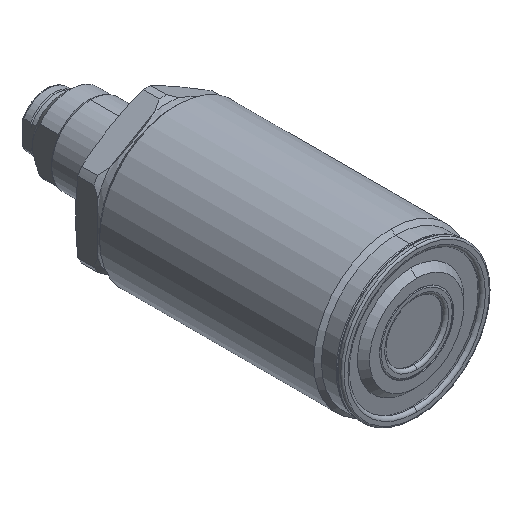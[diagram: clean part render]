
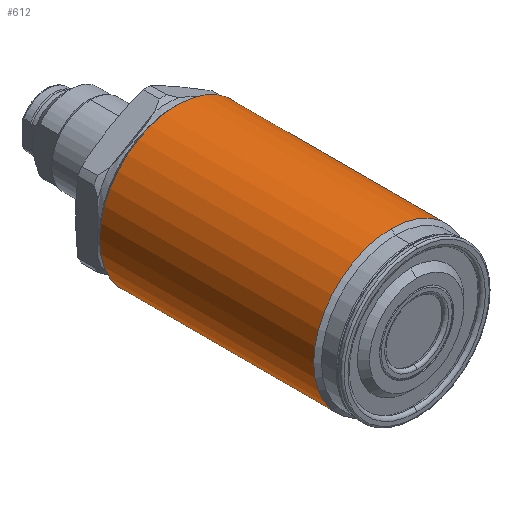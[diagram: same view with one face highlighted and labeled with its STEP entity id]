
A CAD part, isometric view. The second image highlights one B-rep face of the part: STEP entity #612.
In plain terms, the highlighted cylindrical face has radius 18 mm (diameter 36 mm), a full revolution.
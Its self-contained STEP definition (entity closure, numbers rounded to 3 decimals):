
#260=FACE_BOUND('',#920,.T.);
#261=FACE_BOUND('',#921,.T.);
#341=CYLINDRICAL_SURFACE('',#2513,18.);
#410=LINE('',#4097,#491);
#411=LINE('',#4102,#492);
#491=VECTOR('',#3157,1.);
#492=VECTOR('',#3160,1.);
#612=ADVANCED_FACE('',(#260,#261),#341,.T.);
#920=EDGE_LOOP('',(#1419));
#921=EDGE_LOOP('',(#1420,#1421,#1422,#1423,#1424,#1425));
#1419=ORIENTED_EDGE('',*,*,#2020,.T.);
#1420=ORIENTED_EDGE('',*,*,#2021,.T.);
#1421=ORIENTED_EDGE('',*,*,#2021,.F.);
#1422=ORIENTED_EDGE('',*,*,#2022,.F.);
#1423=ORIENTED_EDGE('',*,*,#2023,.T.);
#1424=ORIENTED_EDGE('',*,*,#2023,.F.);
#1425=ORIENTED_EDGE('',*,*,#2024,.F.);
#1742=VERTEX_POINT('',#4096);
#1743=VERTEX_POINT('',#4098);
#1744=VERTEX_POINT('',#4099);
#1745=VERTEX_POINT('',#4101);
#1746=VERTEX_POINT('',#4103);
#2020=EDGE_CURVE('',#1742,#1742,#2227,.T.);
#2021=EDGE_CURVE('',#1743,#1744,#410,.T.);
#2022=EDGE_CURVE('',#1745,#1743,#2228,.T.);
#2023=EDGE_CURVE('',#1745,#1746,#411,.T.);
#2024=EDGE_CURVE('',#1743,#1745,#2229,.T.);
#2227=CIRCLE('',#2510,18.);
#2228=CIRCLE('',#2511,18.);
#2229=CIRCLE('',#2512,18.);
#2510=AXIS2_PLACEMENT_3D('',#4095,#3155,#3156);
#2511=AXIS2_PLACEMENT_3D('',#4100,#3158,#3159);
#2512=AXIS2_PLACEMENT_3D('',#4104,#3161,#3162);
#2513=AXIS2_PLACEMENT_3D('',#4105,#3163,#3164);
#3155=DIRECTION('',(0.,-1.,0.));
#3156=DIRECTION('',(0.,0.,-1.));
#3157=DIRECTION('',(0.,1.,0.));
#3158=DIRECTION('',(0.,-1.,0.));
#3159=DIRECTION('',(0.,0.,-1.));
#3160=DIRECTION('',(0.,1.,0.));
#3161=DIRECTION('',(0.,-1.,0.));
#3162=DIRECTION('',(0.,0.,-1.));
#3163=DIRECTION('',(0.,-1.,0.));
#3164=DIRECTION('',(0.,0.,-1.));
#4095=CARTESIAN_POINT('',(0.,54.3,0.));
#4096=CARTESIAN_POINT('',(0.,54.3,-18.));
#4097=CARTESIAN_POINT('',(0.,0.,18.));
#4098=CARTESIAN_POINT('',(0.,4.6,18.));
#4099=CARTESIAN_POINT('',(0.,49.058,18.));
#4100=CARTESIAN_POINT('',(0.,4.6,0.));
#4101=CARTESIAN_POINT('',(0.,4.6,-18.));
#4102=CARTESIAN_POINT('',(0.,0.,-18.));
#4103=CARTESIAN_POINT('',(0.,49.058,-18.));
#4104=CARTESIAN_POINT('',(0.,4.6,0.));
#4105=CARTESIAN_POINT('',(0.,0.,0.));
